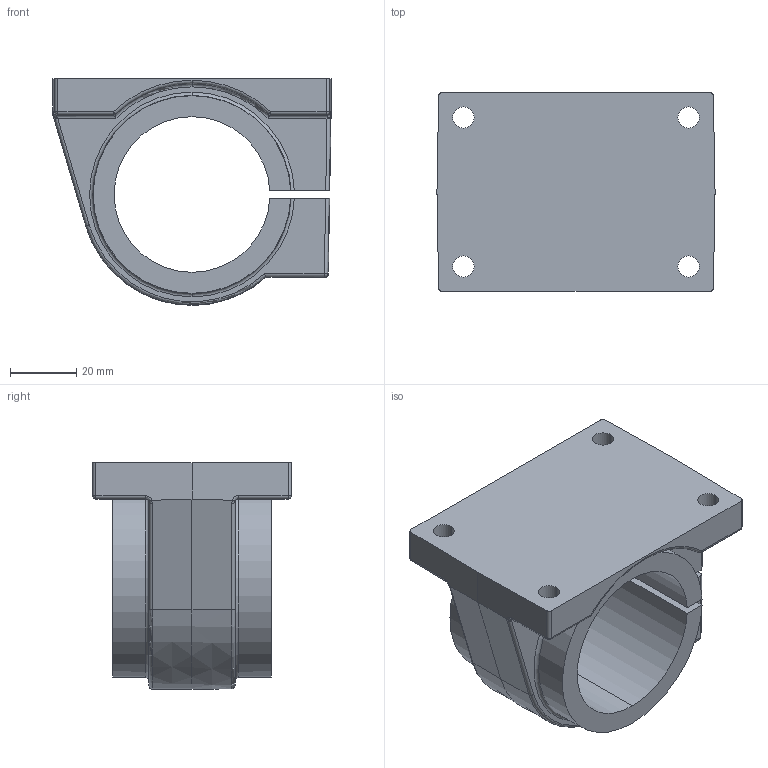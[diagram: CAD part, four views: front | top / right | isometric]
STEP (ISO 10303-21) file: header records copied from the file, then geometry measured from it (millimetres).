
FILE_DESCRIPTION (( 'STEP AP203' ), '1' );
FILE_NAME ('KGGE66-30.step', '2020-03-10T16:27:16', ( '' ), ( '' ), 'SwSTEP 2.0', 'SolidWorks 2019', '' );
FILE_SCHEMA (( 'CONFIG_CONTROL_DESIGN' ));
Length unit declared in the file: millimetre
Products named in the file (2): KGGE66-30
Bounding box: 83.98 x 60 x 68.5 mm (x, y, z)
Volume: 121954.6 mm3; surface area: 33074.8 mm2
Topology: 1 solids, 1 shells, 137 faces, 329 edges, 191 vertices
Faces by surface type: cylinder 58, plane 30, torus 16, bspline 12, cone 11, sphere 10
Entity records: 4439 total; most frequent: CARTESIAN_POINT 1200, DIRECTION 669, ORIENTED_EDGE 642, EDGE_CURVE 321, AXIS2_PLACEMENT_3D 272, VERTEX_POINT 191, EDGE_LOOP 152, CIRCLE 145
